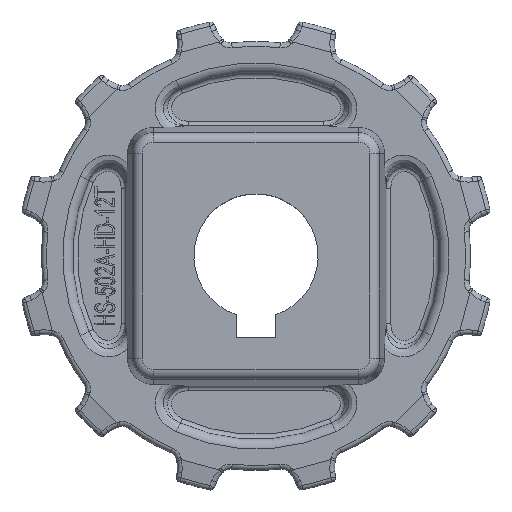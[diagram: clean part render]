
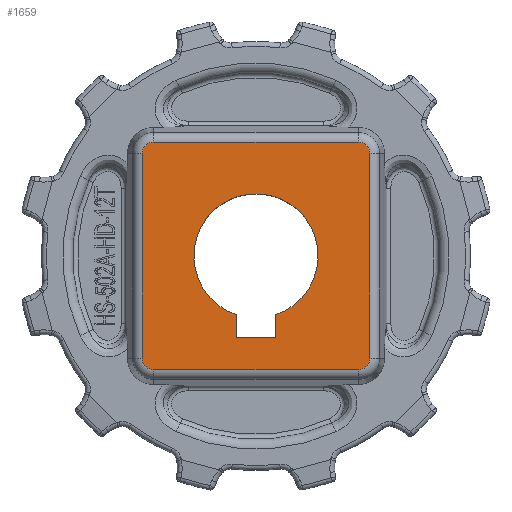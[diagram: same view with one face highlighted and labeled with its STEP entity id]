
A CAD part, top view. The second image highlights one B-rep face of the part: STEP entity #1659.
In plain terms, the highlighted planar face has unit normal (0, 0, 1).
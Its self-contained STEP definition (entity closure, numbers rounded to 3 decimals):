
#1659=ADVANCED_FACE('',(#3524,#3525),#2270,.F.);
#2270=PLANE('',#12135);
#2695=CIRCLE('',#12130,12.6);
#2696=CIRCLE('',#12131,2.322);
#2697=CIRCLE('',#12132,2.322);
#2698=CIRCLE('',#12133,2.322);
#2699=CIRCLE('',#12134,2.322);
#3524=FACE_BOUND('',#3705,.T.);
#3525=FACE_BOUND('',#3706,.T.);
#3705=EDGE_LOOP('',(#5389,#5390,#5391,#5392));
#3706=EDGE_LOOP('',(#5393,#5394,#5395,#5396,#5397,#5398,#5399,#5400));
#5389=ORIENTED_EDGE('',*,*,#9737,.T.);
#5390=ORIENTED_EDGE('',*,*,#9738,.T.);
#5391=ORIENTED_EDGE('',*,*,#9739,.T.);
#5392=ORIENTED_EDGE('',*,*,#9740,.T.);
#5393=ORIENTED_EDGE('',*,*,#9741,.T.);
#5394=ORIENTED_EDGE('',*,*,#9742,.T.);
#5395=ORIENTED_EDGE('',*,*,#9743,.T.);
#5396=ORIENTED_EDGE('',*,*,#9744,.T.);
#5397=ORIENTED_EDGE('',*,*,#9745,.T.);
#5398=ORIENTED_EDGE('',*,*,#9746,.T.);
#5399=ORIENTED_EDGE('',*,*,#9747,.T.);
#5400=ORIENTED_EDGE('',*,*,#9748,.T.);
#8537=VERTEX_POINT('',#18469);
#8538=VERTEX_POINT('',#18470);
#8539=VERTEX_POINT('',#18472);
#8540=VERTEX_POINT('',#18474);
#8541=VERTEX_POINT('',#18477);
#8542=VERTEX_POINT('',#18478);
#8543=VERTEX_POINT('',#18480);
#8544=VERTEX_POINT('',#18482);
#8545=VERTEX_POINT('',#18484);
#8546=VERTEX_POINT('',#18486);
#8547=VERTEX_POINT('',#18488);
#8548=VERTEX_POINT('',#18490);
#9737=EDGE_CURVE('',#8537,#8538,#10866,.T.);
#9738=EDGE_CURVE('',#8538,#8539,#10867,.T.);
#9739=EDGE_CURVE('',#8539,#8540,#2695,.T.);
#9740=EDGE_CURVE('',#8540,#8537,#10868,.T.);
#9741=EDGE_CURVE('',#8541,#8542,#10869,.T.);
#9742=EDGE_CURVE('',#8542,#8543,#2696,.T.);
#9743=EDGE_CURVE('',#8543,#8544,#10870,.T.);
#9744=EDGE_CURVE('',#8544,#8545,#2697,.T.);
#9745=EDGE_CURVE('',#8545,#8546,#10871,.T.);
#9746=EDGE_CURVE('',#8546,#8547,#2698,.T.);
#9747=EDGE_CURVE('',#8547,#8548,#10872,.T.);
#9748=EDGE_CURVE('',#8548,#8541,#2699,.T.);
#10866=LINE('',#18468,#11357);
#10867=LINE('',#18471,#11358);
#10868=LINE('',#18475,#11359);
#10869=LINE('',#18476,#11360);
#10870=LINE('',#18481,#11361);
#10871=LINE('',#18485,#11362);
#10872=LINE('',#18489,#11363);
#11357=VECTOR('',#14308,1.);
#11358=VECTOR('',#14309,1.);
#11359=VECTOR('',#14312,1.);
#11360=VECTOR('',#14313,1.);
#11361=VECTOR('',#14316,1.);
#11362=VECTOR('',#14319,1.);
#11363=VECTOR('',#14322,1.);
#12130=AXIS2_PLACEMENT_3D('',#18473,#14310,#14311);
#12131=AXIS2_PLACEMENT_3D('',#18479,#14314,#14315);
#12132=AXIS2_PLACEMENT_3D('',#18483,#14317,#14318);
#12133=AXIS2_PLACEMENT_3D('',#18487,#14320,#14321);
#12134=AXIS2_PLACEMENT_3D('',#18491,#14323,#14324);
#12135=AXIS2_PLACEMENT_3D('',#18492,#14325,#14326);
#14308=DIRECTION('',(-1.,0.,0.));
#14309=DIRECTION('',(0.,1.,0.));
#14310=DIRECTION('',(0.,0.,-1.));
#14311=DIRECTION('',(-1.,0.,0.));
#14312=DIRECTION('',(0.,-1.,0.));
#14313=DIRECTION('',(-1.,0.,0.));
#14314=DIRECTION('',(0.,0.,1.));
#14315=DIRECTION('',(0.,-1.,0.));
#14316=DIRECTION('',(0.,-1.,0.));
#14317=DIRECTION('',(0.,0.,1.));
#14318=DIRECTION('',(0.,-1.,0.));
#14319=DIRECTION('',(1.,0.,0.));
#14320=DIRECTION('',(0.,0.,1.));
#14321=DIRECTION('',(0.,-1.,0.));
#14322=DIRECTION('',(0.,1.,0.));
#14323=DIRECTION('',(0.,0.,1.));
#14324=DIRECTION('',(0.,-1.,0.));
#14325=DIRECTION('',(0.,0.,-1.));
#14326=DIRECTION('',(0.,-1.,0.));
#18468=CARTESIAN_POINT('',(20.75,133.4,12.5));
#18469=CARTESIAN_POINT('',(4.,133.4,12.5));
#18470=CARTESIAN_POINT('',(-4.,133.4,12.5));
#18471=CARTESIAN_POINT('',(-4.,170.75,12.5));
#18472=CARTESIAN_POINT('',(-4.,138.052,12.5));
#18473=CARTESIAN_POINT('',(0.,150.,12.5));
#18474=CARTESIAN_POINT('',(4.,138.052,12.5));
#18475=CARTESIAN_POINT('',(4.,170.75,12.5));
#18476=CARTESIAN_POINT('',(20.75,173.072,12.5));
#18477=CARTESIAN_POINT('',(20.75,173.072,12.5));
#18478=CARTESIAN_POINT('',(-20.75,173.072,12.5));
#18479=CARTESIAN_POINT('',(-20.75,170.75,12.5));
#18480=CARTESIAN_POINT('',(-23.072,170.75,12.5));
#18481=CARTESIAN_POINT('',(-23.072,170.75,12.5));
#18482=CARTESIAN_POINT('',(-23.072,129.25,12.5));
#18483=CARTESIAN_POINT('',(-20.75,129.25,12.5));
#18484=CARTESIAN_POINT('',(-20.75,126.928,12.5));
#18485=CARTESIAN_POINT('',(20.75,126.928,12.5));
#18486=CARTESIAN_POINT('',(20.75,126.928,12.5));
#18487=CARTESIAN_POINT('',(20.75,129.25,12.5));
#18488=CARTESIAN_POINT('',(23.072,129.25,12.5));
#18489=CARTESIAN_POINT('',(23.072,170.75,12.5));
#18490=CARTESIAN_POINT('',(23.072,170.75,12.5));
#18491=CARTESIAN_POINT('',(20.75,170.75,12.5));
#18492=CARTESIAN_POINT('',(20.75,170.75,12.5));
